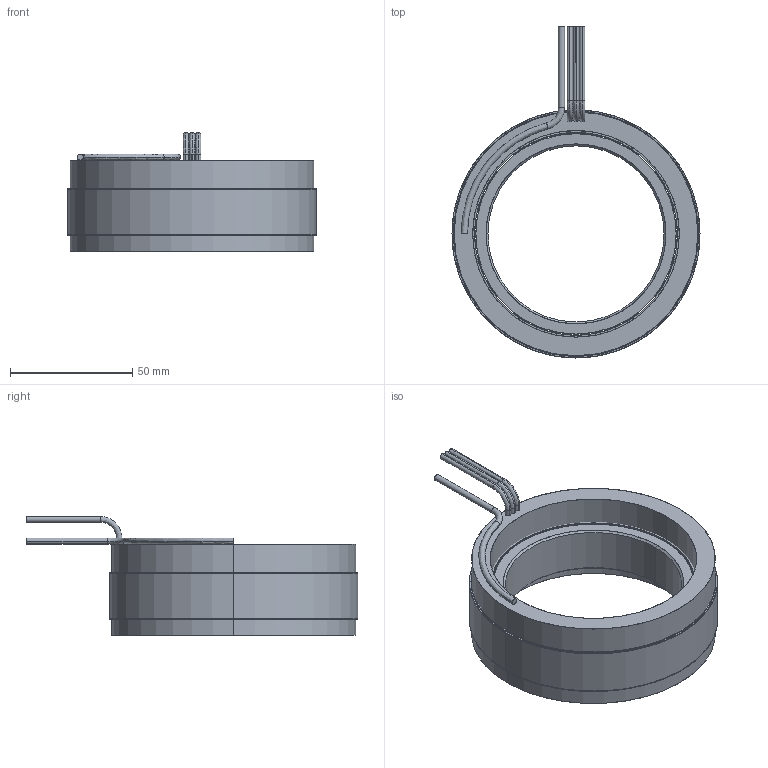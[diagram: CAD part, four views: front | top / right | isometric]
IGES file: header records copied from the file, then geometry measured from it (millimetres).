
Start section: SolidWorks IGES file using analytic representation for surfaces
Global section: file name: \\fs01.aveox.local\user documents\eng\My Documents\6100395-XX STATOR AND ROTOR SET, UT-4000-32P3, SENSORLESS\6100395-02.IGS; native system: SolidWorks 2016; preprocessor: SolidWorks 2016; author: eng; date: 201215.093356; units: inch
Bounding box: 101.6 x 135.89 x 48.64 mm (x, y, z)
Surface area: 76705 mm2 (no closed solid volume)
Topology: 0 solids, 0 shells, 75 faces, 2224 edges, 2224 vertices
Faces by surface type: revolution 46, bspline 29
